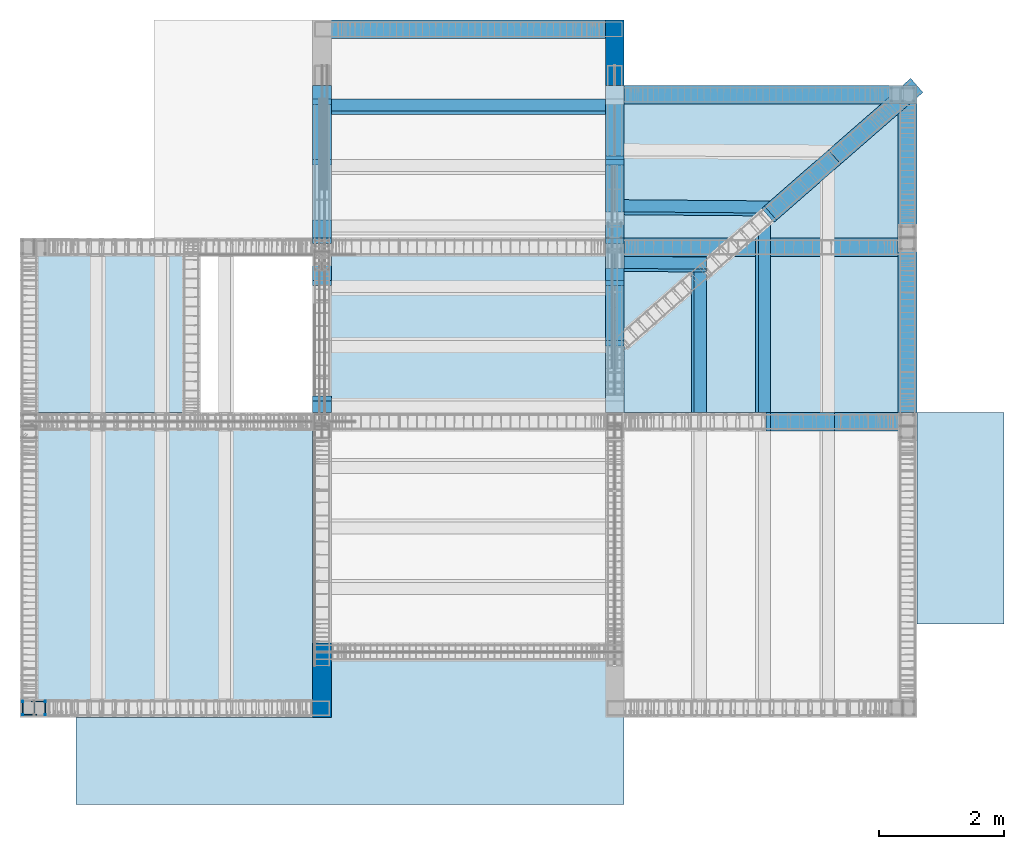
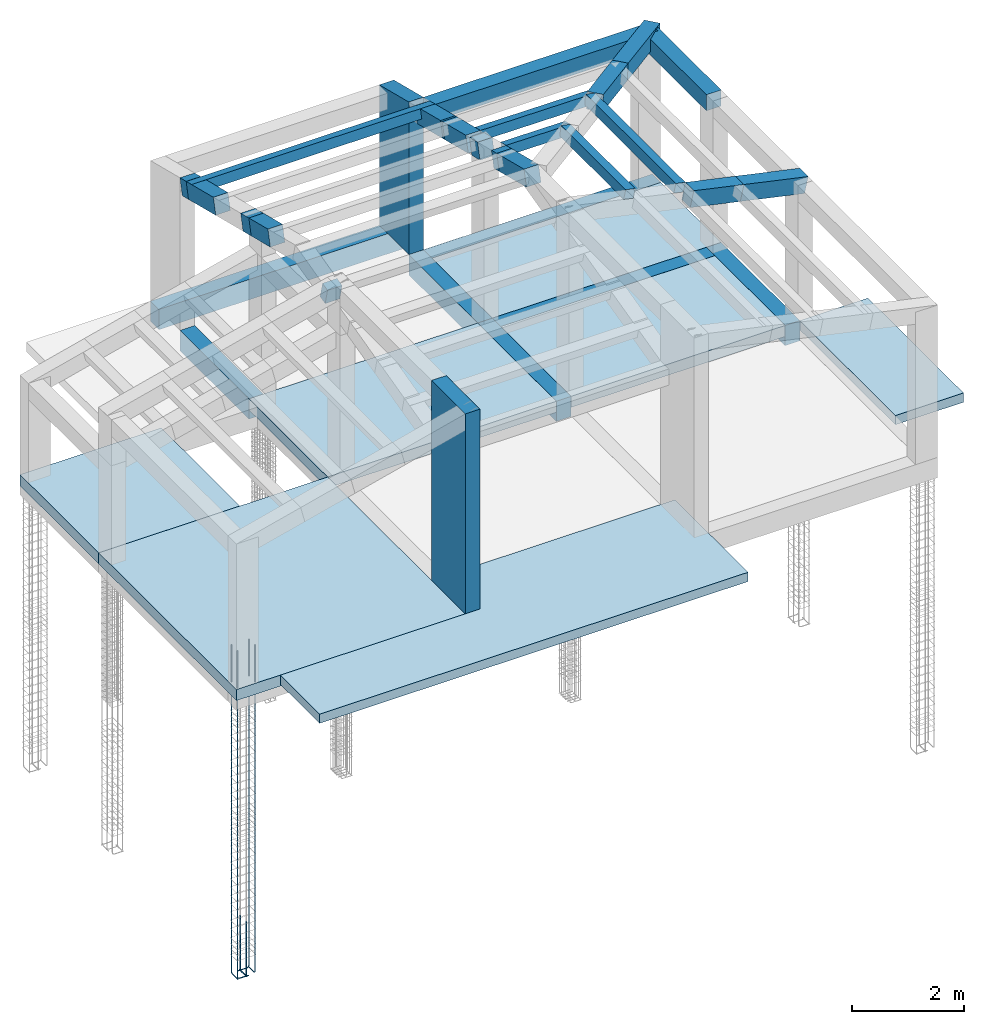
# One storey, part 2 of 15: 29 beams, 7 slabs, 4 reinforcing bars, 2 walls.
"""IFC4 building model written with IfcOpenShell, lengths in metres."""

from ifc_helpers import new_model, entity, si_unit, frame, frame_2d, origin_with_axes, origin_2d_with_axis, place, context, project, spatial, polyline, rectangle, outline, extrude, faceted_brep, source, transform, mapped, material, layer, layer_set, layer_usage, material_profile, profile_set, profile_usage, type_object, element, save


model = new_model("IFC4")

# Units and contexts
model_context = context("Model", 3, precision=1e-05, world=origin_with_axes())
ifc_project = project(units=[si_unit("LENGTHUNIT", "METRE"), si_unit("AREAUNIT", "SQUARE_METRE"), si_unit("VOLUMEUNIT", "CUBIC_METRE"), si_unit("MASSUNIT", "GRAM", prefix="KILO"), si_unit("TIMEUNIT", "SECOND"), si_unit("PLANEANGLEUNIT", "RADIAN"), si_unit("SOLIDANGLEUNIT", "STERADIAN"), si_unit("THERMODYNAMICTEMPERATUREUNIT", "DEGREE_CELSIUS")], contexts=[model_context])

# Site, building, storey
placement_1 = place(None, origin_with_axes())
site = spatial("IfcSite", under=ifc_project, at=placement_1, Name="Italia", CompositionType="ELEMENT")
building = spatial("IfcBuilding", under=site, at=placement_1, Name="Bifamiliare", CompositionType="ELEMENT")
storey_placement = place(None, frame((0.0, 0.0, 5.949999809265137), z_axis=(0.0, 0.0, 1.0), x_axis=(1.0, 0.0, 0.0)))
storey = spatial("IfcBuildingStorey", under=building, at=storey_placement, Name="Storey 2", CompositionType="ELEMENT", Elevation=5.949999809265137)

# Beams
ifc_material_1 = material(Name="Legname a media elasticità", Category="Legname a media elasticità")
ifc_material_profile_1 = material_profile(ifc_material_1, rectangle(XDim=0.2, YDim=0.2, at=frame_2d((0.0, 0.0), x_axis=(0.967738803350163, -0.251955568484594))), Name="6 Tr 20x20")
ifc_profile_set_1 = profile_set([ifc_material_profile_1])
ifc_profile_usage_1 = profile_usage(ifc_profile_set_1, cardinal=1)
beam_type_1 = type_object("IfcBeamType", Name="6 Tr 20x20", PredefinedType="BEAM", material=ifc_profile_usage_1)
placement_2 = place(placement_1, origin_with_axes())
beam_1_placement = place(placement_2, origin_with_axes())
element("IfcBeam", 1, at=beam_1_placement, inside=storey, type_object=beam_type_1, Name="313", context=model_context, shape_type="SweptSolid", body=[
    extrude(rectangle(XDim=0.2, YDim=0.2, at=frame_2d((0.0, 0.0), x_axis=(0.967074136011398, 0.254494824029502))), frame((10.8, 11.2078, 9.24686), z_axis=(-1.0, 0.0, 0.0), x_axis=(0.0, -1.0, 0.0)), (0.0, 0.0, 1.0), 5.0),
])
ifc_profile_usage_2 = profile_usage(ifc_profile_set_1, cardinal=7)
beam_type_2 = type_object("IfcBeamType", Name="6 Tr 20x20", PredefinedType="BEAM", material=ifc_profile_usage_2)
beam_2_placement = place(placement_2, origin_with_axes())
element("IfcBeam", 2, at=beam_2_placement, inside=storey, type_object=beam_type_2, Name="328", context=model_context, shape_type="SweptSolid", body=[
    extrude(rectangle(XDim=0.2, YDim=0.2, at=frame_2d((0.0, 0.0), x_axis=(-0.97201124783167, -0.234934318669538))), frame((12.1207, 8.6737, 9.88003), z_axis=(-0.99997079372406, 0.007574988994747, -0.000975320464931), x_axis=(-0.007574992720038, -0.999971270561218, 0.0)), (0.0, 0.0, 1.0), 1.32004),
])
ifc_profile_usage_3 = profile_usage(ifc_profile_set_1, cardinal=1)
beam_type_3 = type_object("IfcBeamType", Name="6 Tr 20x20", PredefinedType="BEAM", material=ifc_profile_usage_3)
beam_3_placement = place(placement_2, origin_with_axes())
element("IfcBeam", 3, at=beam_3_placement, inside=storey, type_object=beam_type_3, Name="325", context=model_context, shape_type="SweptSolid", body=[
    extrude(rectangle(XDim=0.2, YDim=0.2, at=frame_2d((0.0, 0.0), x_axis=(0.976706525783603, 0.21457950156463))), frame((13.0309, 6.3, 9.69879), z_axis=(0.0, 1.0, 0.0), x_axis=(-1.0, 0.0, 0.0)), (0.0, 0.0, 1.0), 3.2),
])
ifc_profile_usage_4 = profile_usage(ifc_profile_set_1, cardinal=1)
beam_type_4 = type_object("IfcBeamType", Name="6 Tr 20x20", PredefinedType="BEAM", material=ifc_profile_usage_4)
beam_4_placement = place(placement_2, origin_with_axes())
element("IfcBeam", 4, at=beam_4_placement, inside=storey, type_object=beam_type_4, Name="324", context=model_context, shape_type="SweptSolid", body=[
    extrude(rectangle(XDim=0.2, YDim=0.2, at=frame_2d((0.0, 0.0), x_axis=(0.976706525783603, 0.21457950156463))), frame((12.0009, 6.3, 9.92451), z_axis=(0.0, 1.0, 0.0), x_axis=(-1.0, 0.0, 0.0)), (0.0, 0.0, 1.0), 2.3),
])
ifc_profile_usage_5 = profile_usage(ifc_profile_set_1, cardinal=7)
beam_type_5 = type_object("IfcBeamType", Name="6 Tr 20x20", PredefinedType="BEAM", material=ifc_profile_usage_5)
beam_5_placement = place(placement_2, origin_with_axes())
element("IfcBeam", 5, at=beam_5_placement, inside=storey, type_object=beam_type_5, Name="330", context=model_context, shape_type="SweptSolid", body=[
    extrude(rectangle(XDim=0.2, YDim=0.2, at=frame_2d((0.0, 0.0), x_axis=(-0.97201124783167, -0.234934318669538))), frame((13.1508, 9.5737, 9.65431), z_axis=(-0.999962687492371, 0.008510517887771, -0.001491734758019), x_axis=(-0.008510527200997, -0.999963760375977, 0.0)), (0.0, 0.0, 1.0), 2.35009),
])
ifc_material_2 = material(Name="Calcestruzzo", Category="Calcestruzzo")
ifc_material_profile_2 = material_profile(ifc_material_2, rectangle(XDim=0.3, YDim=0.55, at=frame_2d((0.0, 0.0), x_axis=(0.0, 1.0))), Name="9 Pil 55x30")
ifc_profile_set_2 = profile_set([ifc_material_profile_2])
ifc_profile_usage_6 = profile_usage(ifc_profile_set_2, cardinal=1)
beam_type_6 = type_object("IfcBeamType", Name="4 Tr 30x35", PredefinedType="BEAM", material=ifc_profile_usage_6)
beam_6_placement = place(placement_2, origin_with_axes())
element("IfcBeam", 6, at=beam_6_placement, inside=storey, type_object=beam_type_6, Name="368", context=model_context, shape_type="SweptSolid", body=[
    extrude(rectangle(XDim=0.3, YDim=0.35, at=origin_2d_with_axis()), frame((15.4625, 6.15, 9.08906), z_axis=(-0.97681850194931, 0.0, 0.21406914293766), x_axis=(0.0, -1.0, 0.0)), (0.0, 0.0, 1.0), 1.35133),
])
ifc_profile_usage_7 = profile_usage(ifc_profile_set_2, cardinal=2)
beam_type_7 = type_object("IfcBeamType", Name="4 Tr 30x35", PredefinedType="BEAM", material=ifc_profile_usage_7)
beam_7_placement = place(placement_2, origin_with_axes())
element("IfcBeam", 7, at=beam_7_placement, inside=storey, type_object=beam_type_7, Name="329", context=model_context, shape_type="SweptSolid", body=[
    extrude(rectangle(XDim=0.3, YDim=0.35, at=origin_2d_with_axis()), frame((14.1585, 10.3813, 9.37661), z_axis=(-0.742980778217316, -0.649205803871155, 0.162823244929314), x_axis=(0.657986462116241, -0.753029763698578, 0.0)), (0.0, 0.0, 1.0), 1.38631),
])
ifc_profile_usage_8 = profile_usage(ifc_profile_set_2, cardinal=3)
beam_type_8 = type_object("IfcBeamType", Name="4 Tr 30x35", PredefinedType="BEAM", material=ifc_profile_usage_8)
beam_8_placement = place(placement_2, origin_with_axes())
element("IfcBeam", 8, at=beam_8_placement, inside=storey, type_object=beam_type_8, Name="354", context=model_context, shape_type="SweptSolid", body=[
    extrude(rectangle(XDim=0.3, YDim=0.35, at=origin_2d_with_axis()), frame((10.65, 10.3175, 9.39133), z_axis=(0.0, -0.970031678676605, 0.242978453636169), x_axis=(1.0, 0.0, 0.0)), (0.0, 0.0, 1.0), 0.86595),
])
ifc_profile_usage_9 = profile_usage(ifc_profile_set_2, cardinal=3)
beam_type_9 = type_object("IfcBeamType", Name="4 Tr 30x35", PredefinedType="BEAM", material=ifc_profile_usage_9)
beam_9_placement = place(placement_2, origin_with_axes())
element("IfcBeam", 9, at=beam_9_placement, inside=storey, type_object=beam_type_9, Name="354", context=model_context, shape_type="SweptSolid", body=[
    extrude(rectangle(XDim=0.3, YDim=0.35, at=origin_2d_with_axis()), frame((10.65, 11.2875, 9.14836), z_axis=(0.0, -0.970031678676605, 0.242978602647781), x_axis=(1.0, 0.0, 0.0)), (0.0, 0.0, 1.0), 0.938114),
])
ifc_profile_usage_10 = profile_usage(ifc_profile_set_2, cardinal=3)
beam_type_10 = type_object("IfcBeamType", Name="4 Tr 30x35", PredefinedType="BEAM", material=ifc_profile_usage_10)
beam_10_placement = place(placement_2, origin_with_axes())
element("IfcBeam", 10, at=beam_10_placement, inside=storey, type_object=beam_type_10, Name="354", context=model_context, shape_type="SweptSolid", body=[
    extrude(rectangle(XDim=0.3, YDim=0.35, at=origin_2d_with_axis()), frame((10.65, 10.3775, 9.3763), z_axis=(0.0, -0.97002899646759, 0.242989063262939), x_axis=(1.0, 0.0, 0.0)), (0.0, 0.0, 1.0), 0.0618543),
])
ifc_profile_usage_11 = profile_usage(ifc_profile_set_2, cardinal=1)
beam_type_11 = type_object("IfcBeamType", Name="4 Tr 30x35", PredefinedType="BEAM", material=ifc_profile_usage_11)
beam_11_placement = place(placement_2, origin_with_axes())
element("IfcBeam", 11, at=beam_11_placement, inside=storey, type_object=beam_type_11, Name="353", context=model_context, shape_type="SweptSolid", body=[
    extrude(rectangle(XDim=0.3, YDim=0.35, at=origin_2d_with_axis()), frame((5.95, 9.05748, 9.70694), z_axis=(0.0, -0.970031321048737, 0.242979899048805), x_axis=(1.0, 0.0, 0.0)), (0.0, 0.0, 1.0), 0.701009),
])
ifc_profile_usage_12 = profile_usage(ifc_profile_set_2, cardinal=1)
beam_type_12 = type_object("IfcBeamType", Name="4 Tr 30x35", PredefinedType="BEAM", material=ifc_profile_usage_12)
beam_12_placement = place(placement_2, origin_with_axes())
element("IfcBeam", 12, at=beam_12_placement, inside=storey, type_object=beam_type_12, Name="353", context=model_context, shape_type="SweptSolid", body=[
    extrude(rectangle(XDim=0.3, YDim=0.35, at=origin_2d_with_axis()), frame((5.95, 9.34748, 9.6343), z_axis=(0.0, -0.970031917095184, 0.242977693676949), x_axis=(1.0, 0.0, 0.0)), (0.0, 0.0, 1.0), 0.298959),
])
ifc_profile_usage_13 = profile_usage(ifc_profile_set_2, cardinal=2)
beam_type_13 = type_object("IfcBeamType", Name="4 Tr 30x35", PredefinedType="BEAM", material=ifc_profile_usage_13)
beam_13_placement = place(placement_2, origin_with_axes())
element("IfcBeam", 13, at=beam_13_placement, inside=storey, type_object=beam_type_13, Name="329", context=model_context, shape_type="SweptSolid", body=[
    extrude(rectangle(XDim=0.3, YDim=0.35, at=origin_2d_with_axis()), frame((15.4785, 11.5313, 9.08734), z_axis=(-0.74390310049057, -0.64809787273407, 0.163025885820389), x_axis=(0.656885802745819, -0.753990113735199, 0.0)), (0.0, 0.0, 1.0), 1.77442),
])
ifc_profile_usage_14 = profile_usage(ifc_profile_set_2, cardinal=3)
beam_type_14 = type_object("IfcBeamType", Name="4 Tr 30x35", PredefinedType="BEAM", material=ifc_profile_usage_14)
beam_14_placement = place(placement_2, origin_with_axes())
element("IfcBeam", 14, at=beam_14_placement, inside=storey, type_object=beam_type_14, Name="354", context=model_context, shape_type="SweptSolid", body=[
    extrude(rectangle(XDim=0.3, YDim=0.35, at=origin_2d_with_axis()), frame((10.65, 8.37748, 9.87727), z_axis=(0.0, -0.97003173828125, 0.242978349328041), x_axis=(1.0, 0.0, 0.0)), (0.0, 0.0, 1.0), 0.999968),
])
ifc_profile_usage_15 = profile_usage(ifc_profile_set_2, cardinal=1)
beam_type_15 = type_object("IfcBeamType", Name="4 Tr 30x35", PredefinedType="BEAM", material=ifc_profile_usage_15)
beam_15_placement = place(placement_2, origin_with_axes())
element("IfcBeam", 15, at=beam_15_placement, inside=storey, type_object=beam_type_15, Name="327", context=model_context, shape_type="SweptSolid", body=[
    extrude(rectangle(XDim=0.3, YDim=0.35, at=origin_2d_with_axis()), frame((15.35, 9.1, 9.085), z_axis=(0.0, 1.0, 0.0), x_axis=(-1.0, 0.0, 0.0)), (0.0, 0.0, 1.0), 2.45),
])
ifc_profile_usage_16 = profile_usage(ifc_profile_set_2, cardinal=1)
beam_type_16 = type_object("IfcBeamType", Name="4 Tr 30x35", PredefinedType="BEAM", material=ifc_profile_usage_16)
beam_16_placement = place(placement_2, origin_with_axes())
element("IfcBeam", 16, at=beam_16_placement, inside=storey, type_object=beam_type_16, Name="314", context=model_context, shape_type="SweptSolid", body=[
    extrude(rectangle(XDim=0.3, YDim=0.35, at=origin_2d_with_axis()), frame((15.4999, 11.4, 9.085), z_axis=(-0.999999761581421, 0.0, 0.000640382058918), x_axis=(0.0, -1.0, 0.0)), (0.0, 0.0, 1.0), 4.7),
])
ifc_profile_usage_17 = profile_usage(ifc_profile_set_2, cardinal=1)
beam_type_17 = type_object("IfcBeamType", Name="4 Tr 30x35", PredefinedType="BEAM", material=ifc_profile_usage_17)
beam_17_placement = place(placement_2, origin_with_axes())
element("IfcBeam", 17, at=beam_17_placement, inside=storey, type_object=beam_type_17, Name="353", context=model_context, shape_type="SweptSolid", body=[
    extrude(rectangle(XDim=0.3, YDim=0.35, at=origin_2d_with_axis()), frame((5.95, 6.5225, 9.87737), z_axis=(0.0, -0.970055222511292, -0.242884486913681), x_axis=(1.0, 0.0, 0.0)), (0.0, 0.0, 1.0), 0.185556),
])
ifc_profile_usage_18 = profile_usage(ifc_profile_set_2, cardinal=1)
beam_type_18 = type_object("IfcBeamType", Name="4 Tr 30x35", PredefinedType="BEAM", material=ifc_profile_usage_18)
beam_18_placement = place(placement_2, origin_with_axes())
element("IfcBeam", 18, at=beam_18_placement, inside=storey, type_object=beam_type_18, Name="353", context=model_context, shape_type="SweptSolid", body=[
    extrude(rectangle(XDim=0.3, YDim=0.35, at=origin_2d_with_axis()), frame((5.95, 11.2875, 9.14836), z_axis=(0.0, -0.970031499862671, 0.242979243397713), x_axis=(1.0, 0.0, 0.0)), (0.0, 0.0, 1.0), 0.999968),
])
ifc_profile_usage_19 = profile_usage(ifc_profile_set_2, cardinal=3)
beam_type_19 = type_object("IfcBeamType", Name="4 Tr 30x35", PredefinedType="BEAM", material=ifc_profile_usage_19)
beam_19_placement = place(placement_2, origin_with_axes())
element("IfcBeam", 19, at=beam_19_placement, inside=storey, type_object=beam_type_19, Name="354", context=model_context, shape_type="SweptSolid", body=[
    extrude(rectangle(XDim=0.3, YDim=0.35, at=origin_2d_with_axis()), frame((10.65, 9.34748, 9.6343), z_axis=(0.0, -0.970031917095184, 0.242977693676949), x_axis=(1.0, 0.0, 0.0)), (0.0, 0.0, 1.0), 0.298959),
])
ifc_profile_usage_20 = profile_usage(ifc_profile_set_2, cardinal=3)
beam_type_20 = type_object("IfcBeamType", Name="4 Tr 30x35", PredefinedType="BEAM", material=ifc_profile_usage_20)
beam_20_placement = place(placement_2, origin_with_axes())
element("IfcBeam", 20, at=beam_20_placement, inside=storey, type_object=beam_type_20, Name="354", context=model_context, shape_type="SweptSolid", body=[
    extrude(rectangle(XDim=0.3, YDim=0.35, at=origin_2d_with_axis()), frame((10.65, 8.56748, 9.82968), z_axis=(0.0, -0.970031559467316, 0.24297896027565), x_axis=(1.0, 0.0, 0.0)), (0.0, 0.0, 1.0), 0.195869),
])
ifc_profile_usage_21 = profile_usage(ifc_profile_set_2, cardinal=1)
beam_type_21 = type_object("IfcBeamType", Name="4 Tr 30x35", PredefinedType="BEAM", material=ifc_profile_usage_21)
beam_21_placement = place(placement_2, origin_with_axes())
element("IfcBeam", 21, at=beam_21_placement, inside=storey, type_object=beam_type_21, Name="368", context=model_context, shape_type="SweptSolid", body=[
    extrude(rectangle(XDim=0.3, YDim=0.35, at=origin_2d_with_axis()), frame((14.1425, 6.15, 9.37833), z_axis=(-0.976818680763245, 0.0, 0.214068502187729), x_axis=(0.0, -1.0, 0.0)), (0.0, 0.0, 1.0), 1.05444),
])
ifc_profile_usage_22 = profile_usage(ifc_profile_set_2, cardinal=1)
beam_type_22 = type_object("IfcBeamType", Name="4 Tr 30x35", PredefinedType="BEAM", material=ifc_profile_usage_22)
beam_22_placement = place(placement_2, origin_with_axes())
element("IfcBeam", 22, at=beam_22_placement, inside=storey, type_object=beam_type_22, Name="353", context=model_context, shape_type="SweptSolid", body=[
    extrude(rectangle(XDim=0.3, YDim=0.35, at=origin_2d_with_axis()), frame((5.95, 11.5075, 9.09326), z_axis=(0.0, -0.970032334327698, 0.242975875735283), x_axis=(1.0, 0.0, 0.0)), (0.0, 0.0, 1.0), 0.226797),
])
ifc_profile_usage_23 = profile_usage(ifc_profile_set_2, cardinal=1)
beam_type_23 = type_object("IfcBeamType", Name="3 Tr 30x44", PredefinedType="BEAM", material=ifc_profile_usage_23)
beam_23_placement = place(placement_2, origin_with_axes())
element("IfcBeam", 23, at=beam_23_placement, inside=storey, type_object=beam_type_23, Name="222", context=model_context, shape_type="SweptSolid", body=[
    extrude(rectangle(XDim=0.3, YDim=0.44, at=origin_2d_with_axis()), frame((5.95, 11.55, 5.73), z_axis=(0.0, -1.0, 0.0), x_axis=(1.0, 0.0, 0.0)), (0.0, 0.0, 1.0), 2.45),
])
ifc_profile_usage_24 = profile_usage(ifc_profile_set_2, cardinal=1)
beam_type_24 = type_object("IfcBeamType", Name="3 Tr 30x44", PredefinedType="BEAM", material=ifc_profile_usage_24)
beam_24_placement = place(placement_2, origin_with_axes())
element("IfcBeam", 24, at=beam_24_placement, inside=storey, type_object=beam_type_24, Name="227", context=model_context, shape_type="SweptSolid", body=[
    extrude(rectangle(XDim=0.3, YDim=0.44, at=origin_2d_with_axis()), frame((15.35, 6.3, 5.73), z_axis=(0.0, 1.0, 0.0), x_axis=(-1.0, 0.0, 0.0)), (0.0, 0.0, 1.0), 2.8),
])
ifc_profile_usage_25 = profile_usage(ifc_profile_set_2, cardinal=1)
beam_type_25 = type_object("IfcBeamType", Name="3 Tr 30x44", PredefinedType="BEAM", material=ifc_profile_usage_25)
beam_25_placement = place(placement_2, origin_with_axes())
element("IfcBeam", 25, at=beam_25_placement, inside=storey, type_object=beam_type_25, Name="214", context=model_context, shape_type="SweptSolid", body=[
    extrude(rectangle(XDim=0.3, YDim=0.44, at=origin_2d_with_axis()), frame((15.5, 11.4, 5.73), z_axis=(-1.0, 0.0, 0.0), x_axis=(0.0, -1.0, 0.0)), (0.0, 0.0, 1.0), 4.7),
])
ifc_profile_usage_26 = profile_usage(ifc_profile_set_2, cardinal=1)
beam_type_26 = type_object("IfcBeamType", Name="3 Tr 30x44", PredefinedType="BEAM", material=ifc_profile_usage_26)
beam_26_placement = place(placement_2, origin_with_axes())
element("IfcBeam", 26, at=beam_26_placement, inside=storey, type_object=beam_type_26, Name="215", context=model_context, shape_type="SweptSolid", body=[
    extrude(rectangle(XDim=0.3, YDim=0.44, at=origin_2d_with_axis()), frame((10.8, 12.45, 5.73), z_axis=(-1.0, 0.0, 0.0), x_axis=(0.0, -1.0, 0.0)), (0.0, 0.0, 1.0), 5.0),
])
ifc_profile_usage_27 = profile_usage(ifc_profile_set_2, cardinal=1)
beam_type_27 = type_object("IfcBeamType", Name="3 Tr 30x44", PredefinedType="BEAM", material=ifc_profile_usage_27)
beam_27_placement = place(placement_2, origin_with_axes())
element("IfcBeam", 27, at=beam_27_placement, inside=storey, type_object=beam_type_27, Name="223", context=model_context, shape_type="SweptSolid", body=[
    extrude(rectangle(XDim=0.3, YDim=0.44, at=origin_2d_with_axis()), frame((10.65, 6.3, 5.73), z_axis=(0.0, 1.0, 0.0), x_axis=(-1.0, 0.0, 0.0)), (0.0, 0.0, 1.0), 2.8),
])
ifc_profile_usage_28 = profile_usage(ifc_profile_set_2, cardinal=1)
beam_type_28 = type_object("IfcBeamType", Name="3 Tr 30x44", PredefinedType="BEAM", material=ifc_profile_usage_28)
beam_28_placement = place(placement_2, origin_with_axes())
element("IfcBeam", 28, at=beam_28_placement, inside=storey, type_object=beam_type_28, Name="223", context=model_context, shape_type="SweptSolid", body=[
    extrude(rectangle(XDim=0.3, YDim=0.44, at=origin_2d_with_axis()), frame((10.65, 9.1, 5.73), z_axis=(0.0, 1.0, 0.0), x_axis=(-1.0, 0.0, 0.0)), (0.0, 0.0, 1.0), 2.45),
])
ifc_profile_usage_29 = profile_usage(ifc_profile_set_2, cardinal=1)
beam_type_29 = type_object("IfcBeamType", Name="1 Tr 30x24", PredefinedType="BEAM", material=ifc_profile_usage_29)
beam_29_placement = place(placement_2, origin_with_axes())
element("IfcBeam", 29, at=beam_29_placement, inside=storey, type_object=beam_type_29, Name="210", context=model_context, shape_type="SweptSolid", body=[
    extrude(rectangle(XDim=0.24, YDim=0.3, at=frame_2d((0.0, 0.0), x_axis=(0.0, 1.0))), frame((15.5, 8.95, 5.83), z_axis=(-1.0, 0.0, 0.0), x_axis=(0.0, -1.0, 0.0)), (0.0, 0.0, 1.0), 4.7),
])

# Slabs
ifc_material_3 = material(Name="Concrete", Category="Concrete")
slab_type_1 = type_object("IfcSlabType", Name="1 Solaio calpestio", PredefinedType="FLOOR", material=ifc_material_3)
slab_1_placement = place(placement_2, origin_with_axes())
element("IfcSlab", 30, at=slab_1_placement, inside=storey, type_object=slab_type_1, Name="200", context=model_context, shape_type="SweptSolid", body=[
    extrude(outline(polyline([(0.0, 0.0), (0.0, 0.9), (0.0, 4.7), (0.4, 4.7), (0.8, 4.7), (1.2, 4.7), (4.9, 4.7), (4.9, 3.7), (4.9, 3.3), (4.9, 2.9), (4.9, 0.0), (0.0, 0.0)])), frame((1.1, 1.4, 5.95), z_axis=(0.0, 0.0, -1.0), x_axis=(0.0, 1.0, 0.0)), (0.0, 0.0, 1.0), 0.24),
])
ifc_material_4 = material(Name="Concrete", Category="Concrete")
slab_type_2 = type_object("IfcSlabType", Name="1 Solaio calpestio", PredefinedType="FLOOR", material=ifc_material_4)
slab_2_placement = place(placement_2, origin_with_axes())
element("IfcSlab", 31, at=slab_2_placement, inside=storey, type_object=slab_type_2, Name="201", context=model_context, shape_type="SweptSolid", body=[
    extrude(outline(polyline([(0.0, 0.0), (0.0, 2.15), (0.0, 2.9), (-2.8, 2.9), (-2.8, 0.0), (0.0, 0.0)])), frame((1.1, 9.1, 5.95), z_axis=(0.0, 0.0, -1.0), x_axis=(0.0, 1.0, 0.0)), (0.0, 0.0, 1.0), 0.24),
])
ifc_material_5 = material(Name="Concrete", Category="Concrete")
slab_type_3 = type_object("IfcSlabType", Name="1 Solaio calpestio", PredefinedType="FLOOR", material=ifc_material_5)
slab_3_placement = place(placement_2, origin_with_axes())
element("IfcSlab", 32, at=slab_3_placement, inside=storey, type_object=slab_type_3, Name="203", context=model_context, shape_type="SweptSolid", body=[
    extrude(outline(polyline([(0.0, 0.0), (0.0, 5.0), (-2.8, 5.0), (-2.8, 0.0), (0.0, 0.0)])), frame((5.8, 9.1, 5.95), z_axis=(0.0, 0.0, -1.0), x_axis=(0.0, 1.0, 0.0)), (0.0, 0.0, 1.0), 0.24),
])
ifc_material_6 = material(Name="Concrete", Category="Concrete")
slab_type_4 = type_object("IfcSlabType", Name="1 Solaio calpestio", PredefinedType="FLOOR", material=ifc_material_6)
slab_4_placement = place(placement_2, origin_with_axes())
element("IfcSlab", 33, at=slab_4_placement, inside=storey, type_object=slab_type_4, Name="204", context=model_context, shape_type="SweptSolid", body=[
    extrude(outline(polyline([(0.0, 0.0), (0.0, 4.7), (-2.8, 4.7), (-2.8, 0.0), (0.0, 0.0)])), frame((10.8, 9.1, 5.95), z_axis=(0.0, 0.0, -1.0), x_axis=(0.0, 1.0, 0.0)), (0.0, 0.0, 1.0), 0.24),
])
ifc_material_7 = material(Name="Concrete", Category="Concrete")
slab_type_5 = type_object("IfcSlabType", Name="1 Solaio calpestio", PredefinedType="FLOOR", material=ifc_material_7)
slab_5_placement = place(placement_2, origin_with_axes())
element("IfcSlab", 34, at=slab_5_placement, inside=storey, type_object=slab_type_5, Name="206", context=model_context, shape_type="SweptSolid", body=[
    extrude(outline(polyline([(0.0, 0.0), (0.0, 4.7), (-2.45, 4.7), (-2.45, 0.0), (0.0, 0.0)])), frame((10.8, 11.55, 5.95), z_axis=(0.0, 0.0, -1.0), x_axis=(0.0, 1.0, 0.0)), (0.0, 0.0, 1.0), 0.24),
])
ifc_material_8 = material(Name="Concrete", Category="Concrete")
slab_type_6 = type_object("IfcSlabType", Name="4 Balconi", PredefinedType="FLOOR", material=ifc_material_8)
slab_6_placement = place(placement_2, origin_with_axes())
element("IfcSlab", 35, at=slab_6_placement, inside=storey, type_object=slab_type_6, Name="208", context=model_context, shape_type="SweptSolid", body=[
    extrude(outline(polyline([(0.0, 0.0), (0.0, 1.4), (3.4, 1.4), (3.4, 0.0), (0.0, 0.0)])), frame((15.5, 2.9, 5.95), z_axis=(0.0, 0.0, -1.0), x_axis=(0.0, 1.0, 0.0)), (0.0, 0.0, 1.0), 0.2),
])
ifc_material_9 = material(Name="Concrete", Category="Concrete")
slab_type_7 = type_object("IfcSlabType", Name="4 Balconi", PredefinedType="FLOOR", material=ifc_material_9)
slab_7_placement = place(placement_2, origin_with_axes())
element("IfcSlab", 36, at=slab_7_placement, inside=storey, type_object=slab_type_7, Name="210", context=model_context, shape_type="SweptSolid", body=[
    extrude(outline(polyline([(0.0, 0.0), (0.0, 8.8), (1.4, 8.8), (1.8, 8.8), (2.2, 8.8), (2.6, 8.8), (2.6, 3.8), (2.2, 3.8), (1.8, 3.8), (1.4, 3.8), (1.4, 0.0), (0.0, 0.0)])), frame((2.0, 0.0, 5.95), z_axis=(0.0, 0.0, -1.0), x_axis=(0.0, 1.0, 0.0)), (0.0, 0.0, 1.0), 0.2),
])

# Walls
ifc_material_10 = material(Name="Calcestruzzo", Category="Calcestruzzo")
ifc_layer_1 = layer(ifc_material_10, 0.3)
ifc_layer_set_1 = layer_set([ifc_layer_1])
ifc_layer_usage_1 = layer_usage(ifc_layer_set_1, "AXIS2", "POSITIVE", -0.3)
wall_type_1 = type_object("IfcWallType", Name="4 Nuclei", PredefinedType="STANDARD")
wall_1_placement = place(placement_2, origin_with_axes())
element("IfcWallStandardCase", 37, at=wall_1_placement, inside=storey, type_object=wall_type_1, material=ifc_layer_usage_1, Name="307", context=model_context, shape_type="SweptSolid", body=[
    extrude(rectangle(XDim=1.2, YDim=0.3, at=origin_2d_with_axis()), frame((5.95, 2.0, 5.95), z_axis=(0.0, 0.0, 1.0), x_axis=(0.0, 1.0, 0.0)), (0.0, 0.0, 1.0), 4.34),
])
ifc_material_11 = material(Name="Calcestruzzo", Category="Calcestruzzo")
ifc_layer_2 = layer(ifc_material_11, 0.3)
ifc_layer_set_2 = layer_set([ifc_layer_2])
ifc_layer_usage_2 = layer_usage(ifc_layer_set_2, "AXIS2", "POSITIVE", -0.3)
wall_type_2 = type_object("IfcWallType", Name="4 Nuclei", PredefinedType="STANDARD")
wall_2_placement = place(placement_2, origin_with_axes())
element("IfcWall", 38, at=wall_2_placement, inside=storey, type_object=wall_type_2, material=ifc_layer_usage_2, context=model_context, shape_type="Brep", body=[
    faceted_brep([(10.5, 11.55, 5.95), (10.8, 11.55, 5.95), (10.8, 12.6, 5.95), (10.5, 12.6, 5.95), (10.5, 12.6, 5.95), (10.8, 12.6, 5.95), (10.8, 12.6, 9.0), (10.5, 12.6, 9.0), (10.5, 12.6, 9.0), (10.8, 12.6, 9.0), (10.8, 11.55, 9.26301), (10.5, 11.55, 9.26301), (10.5, 11.55, 9.26301), (10.8, 11.55, 9.26301), (10.8, 11.55, 5.95), (10.5, 11.55, 5.95), (10.8, 11.55, 5.95), (10.8, 12.6, 5.95), (10.8, 12.6, 9.0), (10.8, 11.55, 9.26301), (10.5, 11.55, 5.95), (10.5, 12.6, 5.95), (10.5, 12.6, 9.0), (10.5, 11.55, 9.26301)], [[[0, 1, 2, 3]], [[4, 5, 6, 7]], [[8, 9, 10, 11]], [[12, 13, 14, 15]], [[16, 17, 18, 19]], [[20, 21, 22, 23]]]),
])

# Reinforcing bars
shared_shape_1 = source(origin_with_axes(), model_context, "Body", "AdvancedSweptSolid", [
    entity("IfcSweptDiskSolid", entity("IfcIndexedPolyCurve", entity("IfcCartesianPointList3D", [[1.376, 1.444, -0.375], [1.194, 1.444, -0.375], [1.17487, 1.444, -0.371194], [1.15864, 1.444, -0.360355], [1.14781, 1.444, -0.344134], [1.144, 1.444, -0.325], [1.144, 1.444, 0.8125]]), [entity("IfcLineIndex", [1, 2]), entity("IfcLineIndex", [2, 3]), entity("IfcLineIndex", [3, 4]), entity("IfcLineIndex", [4, 5]), entity("IfcLineIndex", [5, 6]), entity("IfcLineIndex", [6, 7])], False), 0.01),
])
reinforcing_bar_1_placement = place(placement_2, origin_with_axes())
element("IfcReinforcingBar", 39, at=reinforcing_bar_1_placement, inside=storey, BarLength=1.39754, CrossSectionArea=0.00031416, NominalDiameter=0.02, context=model_context, shape_type="MappedRepresentation", body=[
    mapped(shared_shape_1, transform((-0.3, 2.8, 0.0), x_axis=(0.0, -1.0, 0.0), y_axis=(1.0, 0.0, 0.0), z_axis=(0.0, 0.0, 1.0), scale=1.0)),
    mapped(shared_shape_1, transform((0.0, 0.0, 0.0), x_axis=(1.0, 0.0, 0.0), y_axis=(0.0, 1.0, 0.0), z_axis=(0.0, 0.0, 1.0), scale=1.0)),
    mapped(shared_shape_1, transform((2.95, 0.3, 0.0), x_axis=(0.0, 1.0, 0.0), y_axis=(-1.0, 0.0, 0.0), z_axis=(0.0, 0.0, 1.0), scale=1.0)),
    mapped(shared_shape_1, transform((2.65, 3.1, 0.0), x_axis=(-1.0, 0.0, 0.0), y_axis=(0.0, -1.0, 0.0), z_axis=(0.0, 0.0, 1.0), scale=1.0)),
])
shared_shape_2 = source(origin_with_axes(), model_context, "Body", "AdvancedSweptSolid", [
    entity("IfcSweptDiskSolid", entity("IfcIndexedPolyCurve", entity("IfcCartesianPointList3D", [[1.325, 1.426, -0.375], [1.325, 1.618, -0.375], [1.325, 1.63331, -0.371955], [1.325, 1.64628, -0.363284], [1.325, 1.65496, -0.350307], [1.325, 1.658, -0.335], [1.325, 1.658, 0.8125]]), [entity("IfcLineIndex", [1, 2]), entity("IfcLineIndex", [2, 3]), entity("IfcLineIndex", [3, 4]), entity("IfcLineIndex", [4, 5]), entity("IfcLineIndex", [5, 6]), entity("IfcLineIndex", [6, 7])], False), 0.008),
])
reinforcing_bar_2_placement = place(placement_2, origin_with_axes())
element("IfcReinforcingBar", 40, at=reinforcing_bar_2_placement, inside=storey, BarLength=1.40193, CrossSectionArea=0.00020106, NominalDiameter=0.016, context=model_context, shape_type="MappedRepresentation", body=[
    mapped(shared_shape_2, transform((2.65, 3.1, 0.0), x_axis=(-1.0, 0.0, 0.0), y_axis=(0.0, -1.0, 0.0), z_axis=(0.0, 0.0, 1.0), scale=1.0)),
    mapped(shared_shape_2, transform((0.0, 0.0, 0.0), x_axis=(1.0, 0.0, 0.0), y_axis=(0.0, 1.0, 0.0), z_axis=(0.0, 0.0, 1.0), scale=1.0)),
])
shared_shape_3 = source(origin_with_axes(), model_context, "Body", "AdvancedSweptSolid", [
    entity("IfcSweptDiskSolid", entity("IfcIndexedPolyCurve", entity("IfcCartesianPointList3D", [[1.144, 1.444, 0.0], [1.144, 1.444, 3.6]]), [entity("IfcLineIndex", [1, 2])], False), 0.01),
])
reinforcing_bar_3_placement = place(placement_2, origin_with_axes())
element("IfcReinforcingBar", 41, at=reinforcing_bar_3_placement, inside=storey, BarLength=3.6, CrossSectionArea=0.00031416, NominalDiameter=0.02, context=model_context, shape_type="MappedRepresentation", body=[
    mapped(shared_shape_3, transform((0.0, 0.212, 0.0), x_axis=(1.0, 0.0, 0.0), y_axis=(0.0, 1.0, 0.0), z_axis=(0.0, 0.0, 1.0), scale=1.0)),
    mapped(shared_shape_3, transform((0.0, 0.0, 0.0), x_axis=(1.0, 0.0, 0.0), y_axis=(0.0, 1.0, 0.0), z_axis=(0.0, 0.0, 1.0), scale=1.0)),
    mapped(shared_shape_3, transform((0.362, 0.0, 0.0), x_axis=(1.0, 0.0, 0.0), y_axis=(0.0, 1.0, 0.0), z_axis=(0.0, 0.0, 1.0), scale=1.0)),
    mapped(shared_shape_3, transform((0.362, 0.212, 0.0), x_axis=(1.0, 0.0, 0.0), y_axis=(0.0, 1.0, 0.0), z_axis=(0.0, 0.0, 1.0), scale=1.0)),
])
shared_shape_4 = source(origin_with_axes(), model_context, "Body", "AdvancedSweptSolid", [
    entity("IfcSweptDiskSolid", entity("IfcIndexedPolyCurve", entity("IfcCartesianPointList3D", [[1.144, 1.444, 2.8], [1.144, 1.444, 6.75]]), [entity("IfcLineIndex", [1, 2])], False), 0.01),
])
reinforcing_bar_4_placement = place(placement_2, origin_with_axes())
element("IfcReinforcingBar", 42, at=reinforcing_bar_4_placement, inside=storey, BarLength=3.95, CrossSectionArea=0.00031416, NominalDiameter=0.02, context=model_context, shape_type="MappedRepresentation", body=[
    mapped(shared_shape_4, transform((0.0, 0.212, 0.0), x_axis=(1.0, 0.0, 0.0), y_axis=(0.0, 1.0, 0.0), z_axis=(0.0, 0.0, 1.0), scale=1.0)),
    mapped(shared_shape_4, transform((0.0, 0.0, 0.0), x_axis=(1.0, 0.0, 0.0), y_axis=(0.0, 1.0, 0.0), z_axis=(0.0, 0.0, 1.0), scale=1.0)),
    mapped(shared_shape_4, transform((0.362, 0.0, 0.0), x_axis=(1.0, 0.0, 0.0), y_axis=(0.0, 1.0, 0.0), z_axis=(0.0, 0.0, 1.0), scale=1.0)),
    mapped(shared_shape_4, transform((0.362, 0.212, 0.0), x_axis=(1.0, 0.0, 0.0), y_axis=(0.0, 1.0, 0.0), z_axis=(0.0, 0.0, 1.0), scale=1.0)),
])

save(model, "model.ifc")
